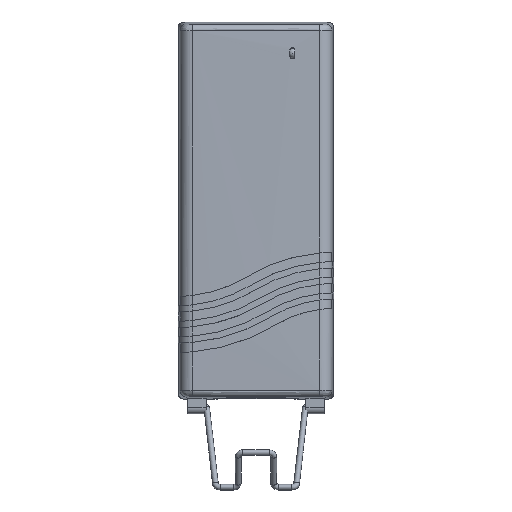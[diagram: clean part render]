
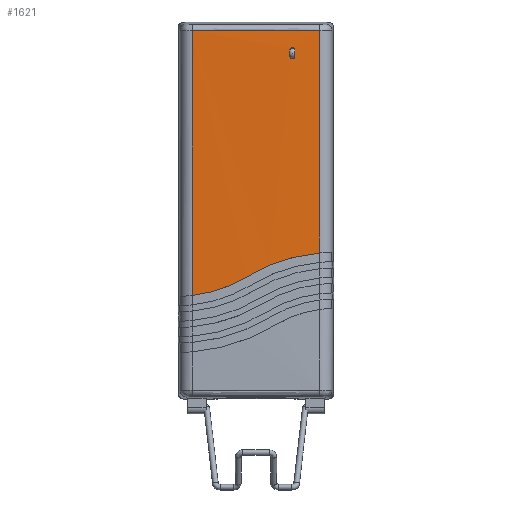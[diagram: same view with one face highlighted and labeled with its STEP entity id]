
A CAD part, top view. The second image highlights one B-rep face of the part: STEP entity #1621.
In plain terms, the highlighted cylindrical face has radius 800 mm (diameter 1600 mm), a partial arc.
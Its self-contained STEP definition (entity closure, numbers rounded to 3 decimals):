
#857=B_SPLINE_CURVE_WITH_KNOTS('',3,(#21061,#21062,#21063,#21064,#21065,
#21066,#21067,#21068,#21069,#21070,#21071,#21072,#21073,#21074,#21075,#21076,
#21077,#21078,#21079,#21080,#21081,#21082,#21083,#21084,#21085,#21086,#21087,
#21088,#21089,#21090,#21091),.UNSPECIFIED.,.F.,.F.,(4,3,3,3,3,3,3,3,3,3,
4),(0.,0.107,0.215,0.322,0.43,
0.5,0.607,0.715,0.822,0.93,
1.),.UNSPECIFIED.);
#858=B_SPLINE_CURVE_WITH_KNOTS('',3,(#21095,#21096,#21097,#21098,#21099,
#21100,#21101,#21102,#21103,#21104,#21105,#21106,#21107,#21108,#21109,#21110,
#21111,#21112,#21113,#21114,#21115,#21116,#21117,#21118,#21119,#21120,#21121,
#21122,#21123,#21124,#21125),.UNSPECIFIED.,.F.,.F.,(4,3,3,3,3,3,3,3,3,3,
4),(0.,0.107,0.215,0.322,0.43,
0.5,0.607,0.715,0.822,
0.93,1.),.UNSPECIFIED.);
#859=B_SPLINE_CURVE_WITH_KNOTS('',3,(#21126,#21127,#21128,#21129,#21130,
#21131),.UNSPECIFIED.,.F.,.F.,(4,2,4),(0.,0.5,1.),.UNSPECIFIED.);
#860=B_SPLINE_CURVE_WITH_KNOTS('',3,(#21134,#21135,#21136,#21137,#21138,
#21139),.UNSPECIFIED.,.F.,.F.,(4,2,4),(0.,0.5,1.),.UNSPECIFIED.);
#861=B_SPLINE_CURVE_WITH_KNOTS('',3,(#21143,#21144,#21145,#21146),.UNSPECIFIED.,
.F.,.F.,(4,4),(0.,1.),.UNSPECIFIED.);
#1106=CYLINDRICAL_SURFACE('',#12405,800.);
#1621=ADVANCED_FACE('',(#4914,#2575),#1106,.T.);
#2575=FACE_OUTER_BOUND('',#5436,.T.);
#3616=LINE('',#21058,#4643);
#3617=LINE('',#21093,#4644);
#3618=LINE('',#21141,#4645);
#3619=LINE('',#21148,#4646);
#4643=VECTOR('',#14622,1.);
#4644=VECTOR('',#14623,1.);
#4645=VECTOR('',#14624,1.);
#4646=VECTOR('',#14625,1.);
#4914=FACE_BOUND('',#5435,.T.);
#5435=EDGE_LOOP('',(#7987,#7988,#7989,#7990));
#5436=EDGE_LOOP('',(#7991,#7992,#7993,#7994,#7995));
#7987=ORIENTED_EDGE('',*,*,#11275,.T.);
#7988=ORIENTED_EDGE('',*,*,#11276,.T.);
#7989=ORIENTED_EDGE('',*,*,#11277,.T.);
#7990=ORIENTED_EDGE('',*,*,#11278,.T.);
#7991=ORIENTED_EDGE('',*,*,#11279,.F.);
#7992=ORIENTED_EDGE('',*,*,#11280,.T.);
#7993=ORIENTED_EDGE('',*,*,#11281,.T.);
#7994=ORIENTED_EDGE('',*,*,#11282,.T.);
#7995=ORIENTED_EDGE('',*,*,#11283,.T.);
#9814=VERTEX_POINT('',#21059);
#9815=VERTEX_POINT('',#21060);
#9816=VERTEX_POINT('',#21092);
#9817=VERTEX_POINT('',#21094);
#9818=VERTEX_POINT('',#21132);
#9819=VERTEX_POINT('',#21133);
#9820=VERTEX_POINT('',#21140);
#9821=VERTEX_POINT('',#21142);
#9822=VERTEX_POINT('',#21147);
#11275=EDGE_CURVE('',#9814,#9815,#3616,.T.);
#11276=EDGE_CURVE('',#9815,#9816,#857,.T.);
#11277=EDGE_CURVE('',#9816,#9817,#3617,.T.);
#11278=EDGE_CURVE('',#9817,#9814,#858,.T.);
#11279=EDGE_CURVE('',#9818,#9819,#859,.T.);
#11280=EDGE_CURVE('',#9818,#9820,#860,.T.);
#11281=EDGE_CURVE('',#9820,#9821,#3618,.T.);
#11282=EDGE_CURVE('',#9821,#9822,#861,.T.);
#11283=EDGE_CURVE('',#9822,#9819,#3619,.T.);
#12405=AXIS2_PLACEMENT_3D('',#21149,#14626,#14627);
#14622=DIRECTION('',(0.,-1.,0.));
#14623=DIRECTION('',(0.,1.,0.));
#14624=DIRECTION('',(0.,1.,0.));
#14625=DIRECTION('',(0.,-1.,0.));
#14626=DIRECTION('',(0.,1.,0.));
#14627=DIRECTION('',(0.,0.,1.));
#21058=CARTESIAN_POINT('',(12.5,60.5,15.902));
#21059=CARTESIAN_POINT('',(12.5,51.5,15.902));
#21060=CARTESIAN_POINT('',(12.5,49.5,15.902));
#21061=CARTESIAN_POINT('',(12.5,49.5,15.902));
#21062=CARTESIAN_POINT('',(12.5,49.41,15.902));
#21063=CARTESIAN_POINT('',(12.485,49.32,15.903));
#21064=CARTESIAN_POINT('',(12.455,49.235,15.903));
#21065=CARTESIAN_POINT('',(12.425,49.151,15.904));
#21066=CARTESIAN_POINT('',(12.381,49.07,15.904));
#21067=CARTESIAN_POINT('',(12.325,49.,15.905));
#21068=CARTESIAN_POINT('',(12.269,48.93,15.906));
#21069=CARTESIAN_POINT('',(12.2,48.869,15.907));
#21070=CARTESIAN_POINT('',(12.124,48.822,15.908));
#21071=CARTESIAN_POINT('',(12.048,48.774,15.909));
#21072=CARTESIAN_POINT('',(11.963,48.739,15.911));
#21073=CARTESIAN_POINT('',(11.876,48.72,15.912));
#21074=CARTESIAN_POINT('',(11.818,48.707,15.913));
#21075=CARTESIAN_POINT('',(11.759,48.7,15.914));
#21076=CARTESIAN_POINT('',(11.7,48.7,15.914));
#21077=CARTESIAN_POINT('',(11.61,48.7,15.916));
#21078=CARTESIAN_POINT('',(11.52,48.715,15.917));
#21079=CARTESIAN_POINT('',(11.435,48.745,15.918));
#21080=CARTESIAN_POINT('',(11.351,48.775,15.919));
#21081=CARTESIAN_POINT('',(11.27,48.819,15.921));
#21082=CARTESIAN_POINT('',(11.2,48.875,15.922));
#21083=CARTESIAN_POINT('',(11.13,48.931,15.923));
#21084=CARTESIAN_POINT('',(11.069,49.,15.923));
#21085=CARTESIAN_POINT('',(11.022,49.076,15.924));
#21086=CARTESIAN_POINT('',(10.974,49.152,15.925));
#21087=CARTESIAN_POINT('',(10.939,49.237,15.925));
#21088=CARTESIAN_POINT('',(10.919,49.324,15.925));
#21089=CARTESIAN_POINT('',(10.907,49.382,15.926));
#21090=CARTESIAN_POINT('',(10.9,49.441,15.926));
#21091=CARTESIAN_POINT('',(10.9,49.5,15.926));
#21092=CARTESIAN_POINT('',(10.9,49.5,15.926));
#21093=CARTESIAN_POINT('',(10.9,60.5,15.926));
#21094=CARTESIAN_POINT('',(10.9,51.5,15.926));
#21095=CARTESIAN_POINT('',(10.9,51.5,15.926));
#21096=CARTESIAN_POINT('',(10.9,51.59,15.926));
#21097=CARTESIAN_POINT('',(10.915,51.68,15.926));
#21098=CARTESIAN_POINT('',(10.945,51.765,15.925));
#21099=CARTESIAN_POINT('',(10.975,51.849,15.925));
#21100=CARTESIAN_POINT('',(11.019,51.93,15.924));
#21101=CARTESIAN_POINT('',(11.075,52.,15.923));
#21102=CARTESIAN_POINT('',(11.131,52.07,15.923));
#21103=CARTESIAN_POINT('',(11.2,52.131,15.922));
#21104=CARTESIAN_POINT('',(11.276,52.178,15.921));
#21105=CARTESIAN_POINT('',(11.352,52.226,15.919));
#21106=CARTESIAN_POINT('',(11.437,52.261,15.918));
#21107=CARTESIAN_POINT('',(11.524,52.28,15.917));
#21108=CARTESIAN_POINT('',(11.582,52.293,15.916));
#21109=CARTESIAN_POINT('',(11.641,52.3,15.915));
#21110=CARTESIAN_POINT('',(11.7,52.3,15.914));
#21111=CARTESIAN_POINT('',(11.79,52.3,15.913));
#21112=CARTESIAN_POINT('',(11.88,52.285,15.912));
#21113=CARTESIAN_POINT('',(11.965,52.255,15.911));
#21114=CARTESIAN_POINT('',(12.049,52.225,15.909));
#21115=CARTESIAN_POINT('',(12.13,52.181,15.908));
#21116=CARTESIAN_POINT('',(12.2,52.125,15.907));
#21117=CARTESIAN_POINT('',(12.27,52.069,15.906));
#21118=CARTESIAN_POINT('',(12.331,52.,15.905));
#21119=CARTESIAN_POINT('',(12.378,51.924,15.904));
#21120=CARTESIAN_POINT('',(12.426,51.848,15.903));
#21121=CARTESIAN_POINT('',(12.461,51.763,15.903));
#21122=CARTESIAN_POINT('',(12.481,51.676,15.903));
#21123=CARTESIAN_POINT('',(12.493,51.618,15.902));
#21124=CARTESIAN_POINT('',(12.5,51.559,15.902));
#21125=CARTESIAN_POINT('',(12.5,51.5,15.902));
#21126=CARTESIAN_POINT('',(-3.125,-21.354,15.994));
#21127=CARTESIAN_POINT('',(-5.77,-22.968,15.984));
#21128=CARTESIAN_POINT('',(-8.542,-24.262,15.96));
#21129=CARTESIAN_POINT('',(-14.331,-26.237,15.877));
#21130=CARTESIAN_POINT('',(-17.371,-26.917,15.817));
#21131=CARTESIAN_POINT('',(-20.451,-27.253,15.739));
#21132=CARTESIAN_POINT('',(-3.125,-21.354,15.994));
#21133=CARTESIAN_POINT('',(-20.451,-27.253,15.739));
#21134=CARTESIAN_POINT('',(-3.125,-21.354,15.994));
#21135=CARTESIAN_POINT('',(0.462,-19.165,16.008));
#21136=CARTESIAN_POINT('',(4.231,-17.432,15.999));
#21137=CARTESIAN_POINT('',(12.119,-14.846,15.918));
#21138=CARTESIAN_POINT('',(16.265,-13.997,15.846));
#21139=CARTESIAN_POINT('',(20.451,-13.643,15.739));
#21140=CARTESIAN_POINT('',(20.451,-13.643,15.739));
#21141=CARTESIAN_POINT('',(20.451,60.5,15.739));
#21142=CARTESIAN_POINT('',(20.451,57.698,15.739));
#21143=CARTESIAN_POINT('',(20.451,57.698,15.739));
#21144=CARTESIAN_POINT('',(6.819,57.669,16.087));
#21145=CARTESIAN_POINT('',(-6.819,57.669,16.087));
#21146=CARTESIAN_POINT('',(-20.451,57.698,15.739));
#21147=CARTESIAN_POINT('',(-20.451,57.698,15.739));
#21148=CARTESIAN_POINT('',(-20.451,60.5,15.739));
#21149=CARTESIAN_POINT('',(0.,60.5,-784.));
